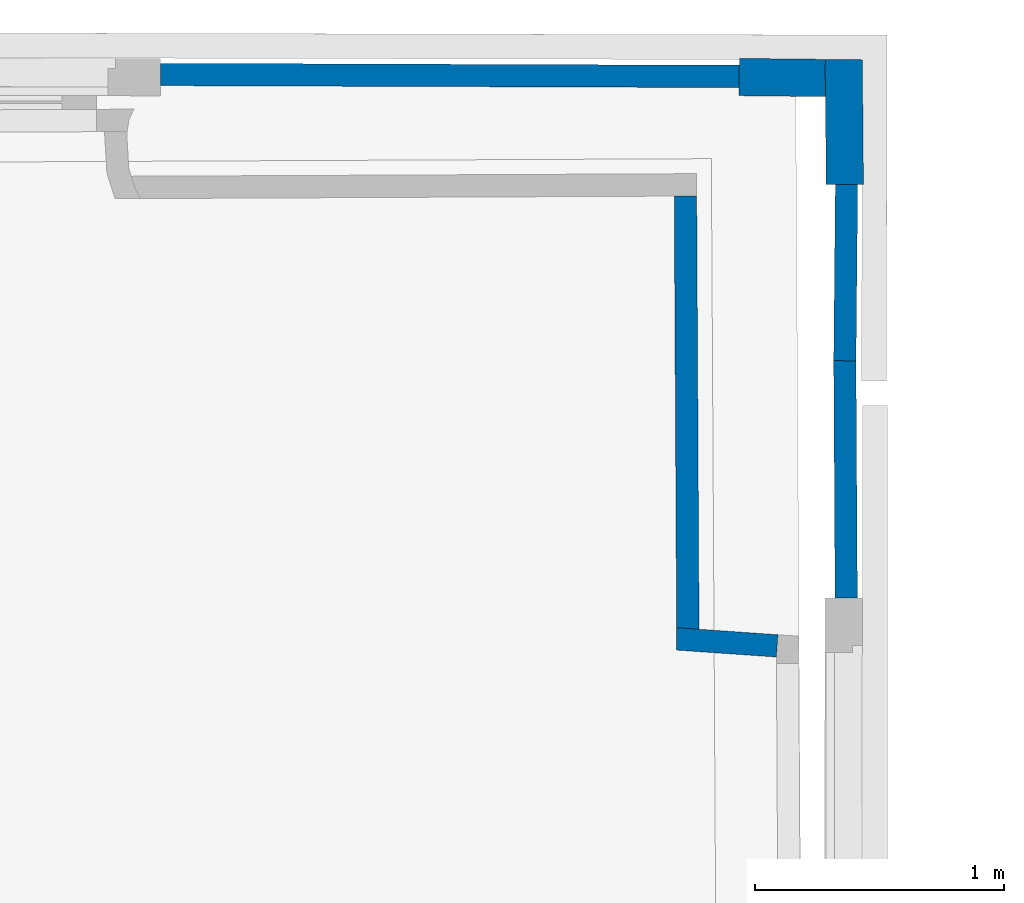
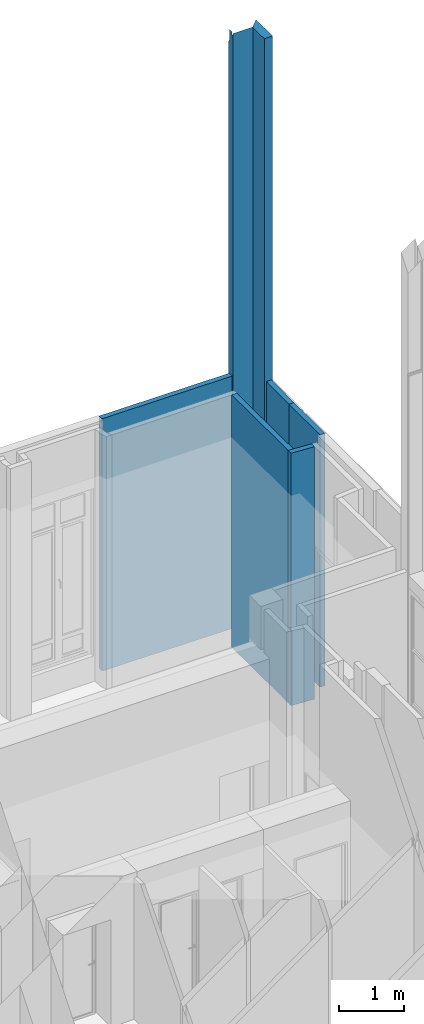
# One storey, part 24 of 97: 7 walls.
"""IFC2X3 building model written with IfcOpenShell, lengths in centimetres."""

import ifcopenshell
import ifcopenshell.guid

model = None  # the IFC model being written
_history = None  # IfcOwnerHistory: only IFC2X3 demands one
_inside = {}  # id of a spatial element -> (the spatial element, [elements in it])
_under = {}  # id of a project, library or spatial element -> (it, [spatial elements below it])
_declared = {}  # id of a project -> (the project, [libraries it declares])
_typed = {}  # id of a type object -> (the type object, [elements of that type])
_made_of = {}  # id of a material, layer set ... -> (it, [elements and type objects made of it])


def new_model(schema):
    """Start an empty IFC model of exactly this schema.

    Asked for "IFC4X3", IfcOpenShell would pick the latest addendum, in which some entities
    have other attributes; the version numbers below select the first issue.
    IFC2X3 requires an IfcOwnerHistory on every rooted entity: one is made here for all.
    """
    global model, _history
    if schema == "IFC4X3":
        model = ifcopenshell.file(schema_version=(4, 3, 0, 0))
    else:
        model = ifcopenshell.file(schema=schema)
    _inside.clear()
    _under.clear()
    _declared.clear()
    _typed.clear()
    _made_of.clear()
    _history = None
    if model.schema == "IFC2X3":
        org = make("IfcOrganization", Name="unknown")
        user = make(
            "IfcPersonAndOrganization",
            ThePerson=make("IfcPerson", FamilyName="unknown"),
            TheOrganization=org,
        )
        app = make(
            "IfcApplication",
            ApplicationDeveloper=org,
            Version="unknown",
            ApplicationFullName="unknown",
            ApplicationIdentifier="unknown",
        )
        _history = make(
            "IfcOwnerHistory",
            OwningUser=user,
            OwningApplication=app,
            ChangeAction="ADDED",
            CreationDate=0,
        )
    return model


def make(cls, **values):
    """One entity of the class cls with the attributes given. An attribute that is None is left unset."""
    return model.create_entity(
        cls, **{name: value for name, value in values.items() if value is not None}
    )


def entity(cls, *values):
    """Any entity or typed value of the class cls, its attributes in the order of the schema. None: left unset."""
    e = model.create_entity(cls)
    for i, value in enumerate(values):
        if value is not None:
            e[i] = value
    return e


def rooted(cls, **values):
    """An entity with a GlobalId (a new one), such as an element, a storey or a relation."""
    return make(cls, GlobalId=ifcopenshell.guid.new(), OwnerHistory=_history, **values)


def si_unit(unit_type, name, prefix=None):
    """IfcSIUnit, for example si_unit("LENGTHUNIT", "METRE", prefix="MILLI")."""
    return make("IfcSIUnit", UnitType=unit_type, Prefix=prefix, Name=name)


def converted_unit(unit_type, name, factor, base, dimensions=None, offset=None):
    """IfcConversionBasedUnit, such as the inch: factor (a typed value) times the base unit."""
    return make(
        "IfcConversionBasedUnit"
        if offset is None
        else "IfcConversionBasedUnitWithOffset",
        ConversionOffset=offset,
        Dimensions=None
        if dimensions is None
        else entity("IfcDimensionalExponents", *dimensions),
        UnitType=unit_type,
        Name=name,
        ConversionFactor=make(
            "IfcMeasureWithUnit", ValueComponent=factor, UnitComponent=base
        ),
    )


def assignment(units):
    """IfcUnitAssignment: the units of a project."""
    return None if units is None else make("IfcUnitAssignment", Units=units)


def point(xyz):
    """IfcCartesianPoint."""
    return None if xyz is None else make("IfcCartesianPoint", Coordinates=xyz)


def direction(xyz):
    """IfcDirection."""
    return None if xyz is None else make("IfcDirection", DirectionRatios=xyz)


def frame(location, z_axis=None, x_axis=None):
    """IfcAxis2Placement3D, a coordinate frame: its origin and axes. An axis left out is left unset."""
    return make(
        "IfcAxis2Placement3D",
        Location=point(location),
        Axis=direction(z_axis),
        RefDirection=direction(x_axis),
    )


def frame_2d(location, x_axis=None):
    """IfcAxis2Placement2D, a coordinate frame in the plane: its origin and x axis."""
    return make(
        "IfcAxis2Placement2D", Location=point(location), RefDirection=direction(x_axis)
    )


def origin():
    """The frame at (0, 0, 0) with its axes left unset."""
    return frame((0.0, 0.0, 0.0))


def origin_with_axes():
    """The frame at (0, 0, 0) with the z axis (0, 0, 1) and the x axis (1, 0, 0) written out."""
    return frame((0.0, 0.0, 0.0), z_axis=(0.0, 0.0, 1.0), x_axis=(1.0, 0.0, 0.0))


def origin_2d_with_axis():
    """The frame at (0, 0) in the plane with the x axis (1, 0) written out."""
    return frame_2d((0.0, 0.0), x_axis=(1.0, 0.0))


def place(relative_to, where):
    """IfcLocalPlacement: puts the frame where relative to a parent placement (None: the world)."""
    return make(
        "IfcLocalPlacement", PlacementRelTo=relative_to, RelativePlacement=where
    )


def context(
    kind, dimensions, precision=None, world=None, true_north=None, identifier=None
):
    """IfcGeometricRepresentationContext, for example the 3D "Model" context."""
    return make(
        "IfcGeometricRepresentationContext",
        ContextIdentifier=identifier,
        ContextType=kind,
        CoordinateSpaceDimension=dimensions,
        Precision=precision,
        WorldCoordinateSystem=world,
        TrueNorth=true_north,
    )


def subcontext(parent, identifier, kind, view, scale=None):
    """IfcGeometricRepresentationSubContext, for example "Body" below "Model"."""
    return make(
        "IfcGeometricRepresentationSubContext",
        ContextIdentifier=identifier,
        ContextType=kind,
        ParentContext=parent,
        TargetScale=scale,
        TargetView=view,
    )


def project(units=None, contexts=None):
    """IfcProject with its units and contexts."""
    return rooted(
        "IfcProject",
        Name="project",
        RepresentationContexts=contexts,
        UnitsInContext=assignment(units),
    )


def spatial(cls, under=None, at=None, **own):
    """A site, building, storey or space (cls), placed at a placement, below another one or the project."""
    s = rooted(cls, ObjectPlacement=at, **own)
    if under is not None:
        _under.setdefault(under.id(), (under, []))[1].append(s)
    return s


def polyline(points):
    """IfcPolyline through the points."""
    return make("IfcPolyline", Points=[point(p) for p in points])


def profile(cls, at=None, kind="AREA", **sizes):
    """A parametric profile (cls). Its sizes go by their IFC names, for example OverallWidth=200.0."""
    return make(cls, ProfileType=kind, Position=at, **sizes)


def rectangle(**sizes):
    """IfcRectangleProfileDef."""
    return profile("IfcRectangleProfileDef", **sizes)


def outline(outer, holes=None, kind="AREA"):
    """IfcArbitraryClosedProfileDef: a profile drawn as a closed curve; with holes, ...WithVoids."""
    if holes is None:
        return make("IfcArbitraryClosedProfileDef", ProfileType=kind, OuterCurve=outer)
    return make(
        "IfcArbitraryProfileDefWithVoids",
        ProfileType=kind,
        OuterCurve=outer,
        InnerCurves=holes,
    )


def extrude(swept, where, along, depth):
    """IfcExtrudedAreaSolid: the profile swept, set in the frame where, extruded along a direction by depth."""
    return make(
        "IfcExtrudedAreaSolid",
        SweptArea=swept,
        Position=where,
        ExtrudedDirection=direction(along),
        Depth=depth,
    )


def clip(a, b, op="DIFFERENCE"):
    """IfcBooleanClippingResult: the solid a cut by the half space b."""
    return make(
        "IfcBooleanClippingResult", Operator=op, FirstOperand=a, SecondOperand=b
    )


def bounded_halfspace(plane, agree, where, boundary):
    """IfcPolygonalBoundedHalfSpace: a half space limited to a polygon's prism."""
    return make(
        "IfcPolygonalBoundedHalfSpace",
        BaseSurface=make("IfcPlane", Position=plane),
        AgreementFlag=agree,
        Position=where,
        PolygonalBoundary=boundary,
    )


def shape(context_of_items, identifier, shape_type, items):
    """IfcShapeRepresentation: the items that make up one representation, for example the "Body"."""
    return make(
        "IfcShapeRepresentation",
        ContextOfItems=context_of_items,
        RepresentationIdentifier=identifier,
        RepresentationType=shape_type,
        Items=items,
    )


def material(Name=None, Category=None):
    """IfcMaterial."""
    return make("IfcMaterial", Name=Name, Category=Category)


def layer(
    of_material, thickness, ventilated=None, Name=None, Category=None, Priority=None
):
    """IfcMaterialLayer: one layer of a wall or slab, of a material (None: an air gap)."""
    return make(
        "IfcMaterialLayer",
        Material=of_material,
        LayerThickness=thickness,
        IsVentilated=ventilated,
        Name=Name,
        Category=Category,
        Priority=Priority,
    )


def layer_set(layers, Name=None):
    """IfcMaterialLayerSet."""
    return make("IfcMaterialLayerSet", MaterialLayers=layers, LayerSetName=Name)


def layer_usage(for_layer_set, set_direction, sense, offset, extent=None):
    """IfcMaterialLayerSetUsage: how a layer set lies in its element."""
    return make(
        "IfcMaterialLayerSetUsage",
        ForLayerSet=for_layer_set,
        LayerSetDirection=set_direction,
        DirectionSense=sense,
        OffsetFromReferenceLine=offset,
        ReferenceExtent=extent,
    )


def made_of(thing, what):
    """Note that an element or type object is made of a material, layer set ...; save() writes the relation."""
    if what is not None:
        _made_of.setdefault(what.id(), (what, []))[1].append(thing)
    return thing


def type_object(cls, material=None, **own):
    """A type object (cls), such as IfcWallType, which elements share."""
    return made_of(rooted(cls, **own), material)


def element(
    cls,
    number,
    at=None,
    inside=None,
    cuts=None,
    type_object=None,
    material=None,
    context=None,
    identifier="Body",
    shape_type=None,
    held_by="IfcProductDefinitionShape",
    body=None,
    shapes=None,
    **own,
):
    """One element of the class cls, such as IfcWall. Its Tag is "e" and its number.

    at: its placement. inside: the storey or other place that contains it. cuts: it is an
    opening in that element (IfcRelVoidsElement). A single representation is given by context,
    identifier, shape_type and body (its items); several are given by shapes. held_by: the class
    of the entity that holds the representations. save() writes the other relations.
    """
    e = rooted(cls, Tag="e%d" % number, ObjectPlacement=at, **own)
    if body is not None:
        shapes = [shape(context, identifier, shape_type, body)]
    if shapes is not None:
        e.Representation = make(held_by, Representations=shapes)
    if inside is not None:
        _inside.setdefault(inside.id(), (inside, []))[1].append(e)
    if cuts is not None:
        rooted(
            "IfcRelVoidsElement", RelatingBuildingElement=cuts, RelatedOpeningElement=e
        )
    if type_object is not None:
        _typed.setdefault(type_object.id(), (type_object, []))[1].append(e)
    return made_of(e, material)


def aggregate(whole, parts):
    """IfcRelAggregates: a whole, such as a stair, and the parts it consists of."""
    return rooted("IfcRelAggregates", RelatingObject=whole, RelatedObjects=parts)


def save(model, path):
    """Write the relations noted so far, then the file.

    IfcRelAggregates (storeys below a building ...), IfcRelContainedInSpatialStructure (elements
    in a storey), IfcRelDefinesByType, IfcRelAssociatesMaterial and IfcRelDeclares: one each for
    every whole, place, type object, material and project.
    """
    for whole, parts in _under.values():
        aggregate(whole, parts)
    for where, things in _inside.values():
        rooted(
            "IfcRelContainedInSpatialStructure",
            RelatedElements=things,
            RelatingStructure=where,
        )
    for kind, things in _typed.values():
        rooted("IfcRelDefinesByType", RelatedObjects=things, RelatingType=kind)
    for what, things in _made_of.values():
        rooted("IfcRelAssociatesMaterial", RelatedObjects=things, RelatingMaterial=what)
    for by, libraries in _declared.values():
        rooted("IfcRelDeclares", RelatingContext=by, RelatedDefinitions=libraries)
    model.write(path)


model = new_model("IFC2X3")

# Units and contexts
model_context = context("Model", 3, precision=0.0001, world=origin(), true_north=direction((0.225632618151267, 0.974212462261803, 0.0)))
body_context = subcontext(model_context, "Body", "Model", "MODEL_VIEW")
ifc_project = project(units=[si_unit("LENGTHUNIT", "METRE", prefix="CENTI"), si_unit("AREAUNIT", "SQUARE_METRE", prefix="CENTI"), si_unit("VOLUMEUNIT", "CUBIC_METRE", prefix="CENTI"), converted_unit("PLANEANGLEUNIT", "DEGREE", entity("IfcRatioMeasure", 0.0174532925), si_unit("PLANEANGLEUNIT", "RADIAN"), dimensions=[0, 0, 0, 0, 0, 0, 0])], contexts=[model_context])

# Site, building, storey
site_placement = place(None, origin_with_axes())
site = spatial("IfcSite", under=ifc_project, at=site_placement, Name="Default Site", CompositionType="ELEMENT")
building_placement = place(site_placement, origin_with_axes())
building = spatial("IfcBuilding", under=site, at=building_placement, Name="Default Building", CompositionType="ELEMENT")
storey_placement = place(building_placement, origin_with_axes())
storey = spatial("IfcBuildingStorey", under=building, at=storey_placement, Name="Rez-de-chaussée", CompositionType="ELEMENT", Elevation=0.0)

# Walls
ifc_material = material(Name="<aucun>")
ifc_layer_1 = layer(ifc_material, 9.0)
ifc_layer_set_1 = layer_set([ifc_layer_1], Name="default")
ifc_layer_usage_1 = layer_usage(ifc_layer_set_1, "AXIS2", "POSITIVE", -4.5)
wall_type_1 = type_object("IfcWallType", Name="default 90", PredefinedType="NOTDEFINED", material=ifc_layer_set_1)
wall_1_placement = place(storey_placement, frame((1101.70544788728, 751.851896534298, 0.0128503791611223), z_axis=(0.0, 0.0, 1.0), x_axis=(-0.9999942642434, 0.0033869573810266, 0.0)))
element("IfcWallStandardCase", 1, at=wall_1_placement, inside=storey, type_object=wall_type_1, material=ifc_layer_usage_1, Name="Enveloppe 369825", context=body_context, shape_type="SweptSolid", body=[
    extrude(rectangle(XDim=8.99999999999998, YDim=232.77805146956, at=origin_2d_with_axis()), frame((116.553246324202, -1.77635683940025e-12, -2.71050543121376e-18), z_axis=(0.0, 0.0, 1.0), x_axis=(-1.97368163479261e-14, -1.0, 0.0)), (0.0, 0.0, 1.0), 477.795358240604),
])
ifc_layer_usage_2 = layer_usage(ifc_layer_set_1, "AXIS2", "POSITIVE", -4.5)
wall_2_placement = place(storey_placement, frame((1144.6249290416, 541.965379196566, 0.0128503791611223), z_axis=(0.0, 0.0, 1.0), x_axis=(-0.00586389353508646, 0.999982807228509, 0.0)))
element("IfcWallStandardCase", 2, at=wall_2_placement, inside=storey, type_object=wall_type_1, material=ifc_layer_usage_2, Name="Enveloppe 368501", context=body_context, shape_type="SweptSolid", body=[
    extrude(outline(polyline([(95.5442477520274, 4.49512329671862), (0.0848769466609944, 4.49999999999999), (0.0848769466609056, -4.49999999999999), (95.4049111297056, -4.50456625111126), (95.5442477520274, 4.49512329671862)])), origin_with_axes(), (0.0, 0.0, 1.0), 477.795358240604),
])
ifc_layer_usage_3 = layer_usage(ifc_layer_set_1, "AXIS2", "POSITIVE", -4.5)
wall_3_placement = place(storey_placement, frame((1144.07013430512, 637.413280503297, 0.0128503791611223), z_axis=(0.0, 0.0, 1.0), x_axis=(0.00961788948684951, 0.999953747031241, 0.0)))
element("IfcWallStandardCase", 3, at=wall_3_placement, inside=storey, type_object=wall_type_1, material=ifc_layer_usage_3, Name="Enveloppe 368626", context=body_context, shape_type="SweptSolid", body=[
    extrude(outline(polyline([(0.0250655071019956, 4.49999999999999), (0.0250655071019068, -4.49999999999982), (71.0646398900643, -4.50000000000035), (70.9016464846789, 4.49999999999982), (0.0250655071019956, 4.49999999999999)])), frame((0.0, 0.0, -5.42101086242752e-18), z_axis=(0.0, 0.0, 1.0), x_axis=(1.0, 0.0, 0.0)), (0.0, 0.0, 1.0), 477.795358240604),
])
ifc_layer_usage_4 = layer_usage(ifc_layer_set_1, "AXIS2", "POSITIVE", -4.5)
wall_4_placement = place(storey_placement, frame((1080.88993312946, 529.624532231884, 0.0128503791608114), z_axis=(0.0, 0.0, 1.0), x_axis=(-0.00545160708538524, 0.999985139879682, 0.0)))
element("IfcWallStandardCase", 4, at=wall_4_placement, inside=storey, type_object=wall_type_1, material=ifc_layer_usage_4, Name="Enveloppe 672919", context=body_context, shape_type="SweptSolid", body=[
    extrude(outline(polyline([(174.091029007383, 4.50000000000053), (0.443706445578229, 4.50000000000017), (-0.232449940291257, -4.49999999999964), (174.083551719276, -4.49999999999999), (174.091029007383, 4.50000000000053)])), origin_with_axes(), (0.0, 0.0, 1.0), 477.795358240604),
])
ifc_layer_usage_5 = layer_usage(ifc_layer_set_1, "AXIS2", "POSITIVE", -4.5)
wall_5_placement = place(storey_placement, frame((1116.8466178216, 522.7148965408, 0.0128503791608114), z_axis=(0.0, 0.0, 1.0), x_axis=(-0.997583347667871, 0.0694799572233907, 0.0)))
element("IfcWallStandardCase", 5, at=wall_5_placement, inside=storey, type_object=wall_type_1, material=ifc_layer_usage_5, Name="Enveloppe 672746", context=body_context, shape_type="SweptSolid", body=[
    extrude(outline(polyline([(40.8704662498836, -4.49999999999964), (40.1943098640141, 4.50000000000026), (-1.77635683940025e-13, 4.49999999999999), (0.0, -4.49999999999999), (40.8704662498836, -4.49999999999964)])), frame((0.0, 0.0, -2.71050543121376e-18), z_axis=(0.0, 0.0, 1.0), x_axis=(1.0, 0.0, 0.0)), (0.0, 0.0, 1.0), 477.795358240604),
])
ifc_layer_2 = layer(ifc_material, 15.0)
ifc_layer_set_2 = layer_set([ifc_layer_2], Name="default")
ifc_layer_usage_6 = layer_usage(ifc_layer_set_2, "AXIS2", "POSITIVE", -7.5)
wall_type_2 = type_object("IfcWallType", Name="default 150", PredefinedType="NOTDEFINED", material=ifc_layer_set_2)
wall_6_placement = place(storey_placement, frame((1136.12541049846, 751.214648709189, 0.0128503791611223), z_axis=(0.0, 0.0, 1.0), x_axis=(-0.99993938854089, 0.0110099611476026, 0.0)))
solid_1 = clip(clip(clip(clip(clip(clip(clip(clip(extrude(outline(polyline([(34.5679850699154, 4.24249394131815), (34.5111467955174, 4.24223282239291), (34.5102395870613, 7.50000000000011), (-0.205247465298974, 7.50000000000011), (-0.205247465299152, -1.25702815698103), (-0.034492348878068, -1.25514803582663), (-1.77635683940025e-13, -3.02388290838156), (0.0, -7.50000000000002), (34.5102395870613, -7.49999999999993), (34.5102395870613, -4.75772687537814), (34.6102298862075, -4.75662591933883), (34.5679850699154, 4.24249394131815)])), frame((0.0, 0.0, -2.71050543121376e-18), z_axis=(0.0, 0.0, 1.0), x_axis=(1.0, 0.0, 0.0)), (0.0, 0.0, 1.0), 1128.48871698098), bounded_halfspace(frame((34.5416314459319, 4.242370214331, 477.795358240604), z_axis=(0.0, 0.0, 1.0), x_axis=(0.999988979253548, 0.00469482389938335, 0.0)), True, frame((34.5416314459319, 4.242370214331, 477.795358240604), z_axis=(0.0, 0.0, 1.0), x_axis=(1.0, 0.0, 0.0)), polyline([(-1.77635683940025e-13, 0.0), (0.0131760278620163, 6.18598122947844e-05), (0.0686070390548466, -8.99977708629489), (-1.77635683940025e-13, 0.0)]))), bounded_halfspace(frame((34.5891117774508, -0.257456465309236, 477.795358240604), z_axis=(0.0, 0.0, 1.0), x_axis=(-0.0076231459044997, 0.999970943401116, 0.0)), True, frame((34.5891117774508, -0.257456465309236, 477.795358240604), z_axis=(0.0, 0.0, 1.0), x_axis=(1.0, 0.0, 0.0)), polyline([(-0.0343043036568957, 4.49988853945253), (-0.0211267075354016, 4.49995040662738), (0.0, 0.0), (-0.0343043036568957, 4.49988853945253)]))), bounded_halfspace(frame((-0.0434859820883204, -0.794177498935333, 1114.64514962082), z_axis=(0.0, 0.0, 1.0), x_axis=(0.0194993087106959, -0.999809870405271, 0.0)), True, frame((-0.0434859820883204, -0.794177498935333, 1114.64514962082), z_axis=(0.0, 0.0, 1.0), x_axis=(1.0, 0.0, 0.0)), polyline([(-0.161761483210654, -0.18937826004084), (-0.161761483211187, -0.085269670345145), (0.0, 0.0), (0.00200976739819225, -0.103049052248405), (-0.161761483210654, -0.18937826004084)]))), bounded_halfspace(frame((-0.205247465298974, 6.79252746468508, 1114.64514962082), z_axis=(0.0, 0.0, 1.0), x_axis=(0.7067357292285, 0.707477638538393, 0.0)), True, frame((-0.205247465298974, 6.79252746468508, 1114.64514962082), z_axis=(0.0, 0.0, 1.0), x_axis=(1.0, 0.0, 0.0)), polyline([(-5.32907051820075e-13, -7.67197463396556), (0.0, 0.0), (0.0135336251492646, 0.0135478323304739), (0.161761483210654, -7.58670496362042), (-5.32907051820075e-13, -7.67197463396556)]))), bounded_halfspace(frame((-0.205247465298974, 6.79252746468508, 1114.64514962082), z_axis=(0.0, 0.0, 1.0), x_axis=(-6.90038304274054e-14, 1.0, 0.0)), True, frame((-0.205247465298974, 6.79252746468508, 1114.64514962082), z_axis=(0.0, 0.0, 1.0), x_axis=(1.0, 0.0, 0.0)), polyline([(0.0, 0.0), (0.0, 0.707472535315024), (0.0135336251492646, 0.0135478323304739), (0.0, 0.0)]))), bounded_halfspace(frame((-0.205247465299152, -1.25702815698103, 1114.64514962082), z_axis=(0.0, 0.0, 1.0), x_axis=(2.06029637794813e-13, 1.0, 0.0)), True, frame((-0.205247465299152, -1.25702815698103, 1114.64514962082), z_axis=(0.0, 0.0, 1.0), x_axis=(1.0, 0.0, 0.0)), polyline([(-1.77635683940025e-13, 0.0), (1.77635683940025e-13, 0.273472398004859), (0.163771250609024, 0.359801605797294), (0.170759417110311, 0.00148952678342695), (-1.77635683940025e-13, 0.0)]))), bounded_halfspace(frame((15.888523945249, 7.50000000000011, 1128.22700207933), z_axis=(-0.00736548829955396, 0.844379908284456, -0.535694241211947), x_axis=(0.999969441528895, 0.00762313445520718, -0.00173315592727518)), True, frame((15.888523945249, 7.50000000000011, 1128.22700207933), z_axis=(0.0, 0.0, 1.0), x_axis=(1.0, 0.0, 0.0)), polyline([(-15.8885239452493, -10.5238829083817), (-15.888523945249, -12.5208111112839), (18.6217156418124, -12.2577268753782), (18.6217156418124, 0.0), (0.0, 0.0), (-15.9300001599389, -8.39722655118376), (-15.8885239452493, -10.5238829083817)]))), bounded_halfspace(frame((0.0, -5.02081111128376, 1108.70972189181), z_axis=(-0.00736548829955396, 0.844379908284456, -0.535694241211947), x_axis=(-0.999969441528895, -0.00762313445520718, 0.00173315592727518)), True, frame((0.0, -5.02081111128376, 1108.70972189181), z_axis=(0.0, 0.0, 1.0), x_axis=(1.0, 0.0, 0.0)), polyline([(0.0, -2.47918888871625), (34.5102395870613, -2.47918888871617), (34.5102395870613, 0.26308423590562), (0.0, 0.0), (0.0, -2.47918888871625)])))
solid_2 = clip(clip(clip(clip(clip(clip(clip(clip(solid_1, bounded_halfspace(frame((34.5102395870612, 4.24222283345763, 1122.83594241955), z_axis=(-0.00736548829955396, 0.844379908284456, -0.535694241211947), x_axis=(-0.00408358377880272, 0.53567890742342, 0.844411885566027)), True, frame((34.5102395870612, 4.24222283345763, 1122.83594241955), z_axis=(0.0, 0.0, 1.0), x_axis=(1.0, 0.0, 0.0)), polyline([(1.77635683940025e-13, -8.99994970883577), (0.0999988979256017, -8.99962970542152), (0.0313918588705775, 0.000147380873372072), (-1.77635683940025e-13, 8.88178419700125e-14), (1.77635683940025e-13, -8.99994970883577)]))), bounded_halfspace(frame((15.6910471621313, 7.50000000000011, 1128.22971727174), z_axis=(-0.00736548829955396, 0.844379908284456, -0.535694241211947), x_axis=(0.0104460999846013, -0.535614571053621, -0.844397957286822)), True, frame((15.6910471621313, 7.50000000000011, 1128.22971727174), z_axis=(0.0, 0.0, 1.0), x_axis=(1.0, 0.0, 0.0)), polyline([(-15.7325233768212, -8.39722655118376), (0.1974767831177, 0.0), (-1.77635683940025e-13, 8.88178419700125e-14), (-15.7345331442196, -8.29417749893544), (-15.7325233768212, -8.39722655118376)]))), bounded_halfspace(frame((0.47883507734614, 7.50000000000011, 1128.48866901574), z_axis=(-0.00907403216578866, 0.845307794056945, -0.534202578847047), x_axis=(0.0104168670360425, -0.534115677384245, -0.845347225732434)), True, frame((0.47883507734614, 7.50000000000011, 1128.48866901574), z_axis=(0.0, 0.0, 1.0), x_axis=(1.0, 0.0, 0.0)), polyline([(-0.670557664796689, -0.693476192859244), (-0.522321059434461, -8.29417749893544), (15.2122120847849, 8.88178419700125e-14), (-1.77635683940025e-13, 0.0), (-0.670557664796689, -0.693476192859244)]))), bounded_halfspace(frame((0.47883507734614, 7.50000000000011, 1128.48871698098), z_axis=(0.848827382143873, 0.00755762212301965, -0.528616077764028), x_axis=(-0.528631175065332, 1.89848137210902e-14, -0.848851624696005)), True, frame((0.47883507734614, 7.50000000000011, 1128.48871698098), z_axis=(0.0, 0.0, 1.0), x_axis=(1.0, 0.0, 0.0)), polyline([(-0.684082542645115, 0.0), (-0.670557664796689, -0.693476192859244), (-1.77635683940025e-13, 0.0), (-0.684082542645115, 0.0)]))), bounded_halfspace(frame((34.5759352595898, -0.257556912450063, 853.897523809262), z_axis=(0.0, 0.0, -1.0), x_axis=(0.00762297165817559, -0.999970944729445, 0.0)), True, frame((34.5759352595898, -0.257556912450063, 853.897523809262), z_axis=(0.0, 0.0, 1.0), x_axis=(1.0, 0.0, 0.0)), polyline([(-0.0343038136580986, 4.49992712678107), (0.0343032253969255, -4.49984995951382), (-0.0211277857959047, 4.49998898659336), (-0.0343038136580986, 4.49992712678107)]))), bounded_halfspace(frame((34.5679850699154, 4.24249394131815, 853.897523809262), z_axis=(0.0, 0.0, -1.0), x_axis=(-0.999988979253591, -0.00469482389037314, 0.0)), True, frame((34.5679850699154, 4.24249394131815, 853.897523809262), z_axis=(0.0, 0.0, 1.0), x_axis=(1.0, 0.0, 0.0)), polyline([(-0.0131775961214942, -6.18671748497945e-05), (0.0211267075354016, -4.49995040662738), (0.0, 0.0), (-0.0131775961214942, -6.18671748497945e-05)]))), bounded_halfspace(frame((-0.0434859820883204, -0.794177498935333, 1115.3724868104), z_axis=(-0.00736548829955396, 0.844379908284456, -0.535694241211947), x_axis=(1.0849897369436e-12, -0.535708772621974, -0.844402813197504)), True, frame((-0.0434859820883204, -0.794177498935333, 1115.3724868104), z_axis=(0.0, 0.0, 1.0), x_axis=(1.0, 0.0, 0.0)), polyline([(-0.161761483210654, -0.18937826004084), (0.00200976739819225, -0.103049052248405), (0.0, 0.0), (-0.161761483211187, -0.085269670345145), (-0.161761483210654, -0.18937826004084)]))), bounded_halfspace(frame((-0.19171384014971, 6.80607529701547, 1127.40201125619), z_axis=(-0.00907403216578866, 0.845307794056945, -0.534202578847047), x_axis=(0.716928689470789, 0.377916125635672, 0.585826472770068)), True, frame((-0.19171384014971, 6.80607529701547, 1127.40201125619), z_axis=(0.0, 0.0, 1.0), x_axis=(1.0, 0.0, 0.0)), polyline([(-0.0135336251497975, -7.68552246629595), (0.148227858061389, -7.6002527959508), (0.0, 8.88178419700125e-14), (-0.0135336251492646, -0.013547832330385), (-0.0135336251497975, -7.68552246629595)])))
element("IfcWallStandardCase", 6, at=wall_6_placement, inside=storey, type_object=wall_type_2, material=ifc_layer_usage_6, Name="Enveloppe 369434", context=body_context, shape_type="Clipping", body=[
    clip(clip(solid_2, bounded_halfspace(frame((-0.19171384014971, 6.80607529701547, 1127.40205933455), z_axis=(0.848827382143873, 0.00755762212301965, -0.528616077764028), x_axis=(-0.0194964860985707, 0.999665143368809, -0.0170143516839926)), True, frame((-0.19171384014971, 6.80607529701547, 1127.40205933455), z_axis=(0.0, 0.0, 1.0), x_axis=(1.0, 0.0, 0.0)), polyline([(-0.0135336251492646, -0.013547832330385), (0.0, 8.88178419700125e-14), (-0.0135336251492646, 0.693924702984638), (-0.0135336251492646, -0.013547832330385)]))), bounded_halfspace(frame((-0.0414762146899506, -0.897226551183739, 1115.21002967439), z_axis=(-0.00736548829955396, 0.844379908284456, -0.535694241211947), x_axis=(-0.0104460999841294, 0.535614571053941, 0.844397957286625)), True, frame((-0.0414762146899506, -0.897226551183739, 1115.21002967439), z_axis=(0.0, 0.0, 1.0), x_axis=(1.0, 0.0, 0.0)), polyline([(-0.163771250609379, -0.359801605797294), (0.00698816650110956, -0.358312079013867), (-1.77635683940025e-13, 0.0), (-0.163771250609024, -0.0863292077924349), (-0.163771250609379, -0.359801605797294)]))),
])
ifc_layer_usage_7 = layer_usage(ifc_layer_set_2, "AXIS2", "POSITIVE", -7.5)
wall_7_placement = place(storey_placement, frame((1144.04827617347, 708.387158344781, 0.0128503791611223), z_axis=(0.0, 0.0, 1.0), x_axis=(-0.00849025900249, 0.99996395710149, 0.0)))
solid_3 = clip(clip(clip(clip(clip(clip(clip(clip(extrude(outline(polyline([(45.9165218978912, 7.50000000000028), (0.0, 7.50000000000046), (0.0, 4.06884938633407), (-0.0582359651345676, 4.069343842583), (-0.099995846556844, -5.44333497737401), (5.29692556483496e-07, -5.44418400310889), (-8.88178419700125e-14, -7.50000000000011), (50.1009449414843, -7.49999999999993), (50.391787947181, 7.41271881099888), (45.9165218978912, 7.50000000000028)])), frame((0.0, 0.0, -1.0842021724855e-17), z_axis=(0.0, 0.0, 1.0), x_axis=(1.0, 0.0, 0.0)), (0.0, 0.0, 1.0), 1127.39024870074), bounded_halfspace(frame((-0.099995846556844, -5.44333497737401, 477.795358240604), z_axis=(0.0, 0.0, 1.0), x_axis=(-6.00310995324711e-06, 0.999999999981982, 0.0)), True, frame((-0.099995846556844, -5.44333497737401, 477.795358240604), z_axis=(0.0, 0.0, 1.0), x_axis=(1.0, 0.0, 0.0)), polyline([(0.0, 0.0), (-1.43964484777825e-06, 0.239816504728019), (0.099995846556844, 0.238005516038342), (0.0999958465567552, -0.00091141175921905), (0.0, 0.0)]))), bounded_halfspace(frame((-8.88178419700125e-14, 3.55612743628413, 477.795358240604), z_axis=(0.0, 0.0, 1.0), x_axis=(-1.02053782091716e-14, -1.0, 0.0)), True, frame((-8.88178419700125e-14, 3.55612743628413, 477.795358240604), z_axis=(0.0, 0.0, 1.0), x_axis=(1.0, 0.0, 0.0)), polyline([(-0.0999989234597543, -8.48691092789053), (-0.0179687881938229, 0.000163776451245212), (0.0, 1.77635683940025e-13), (8.88178419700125e-14, -8.48737493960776), (-0.0999989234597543, -8.48691092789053)]))), bounded_halfspace(frame((-0.0999972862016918, -5.20351847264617, 477.795358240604), z_axis=(0.0, 0.0, 1.0), x_axis=(-6.00311027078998e-06, 0.999999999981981, 0.0)), True, frame((-0.0999972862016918, -5.20351847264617, 477.795358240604), z_axis=(0.0, 0.0, 1.0), x_axis=(1.0, 0.0, 0.0)), polyline([(0.0, 1.77635683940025e-13), (-1.63725815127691e-06, 0.272734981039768), (0.0999972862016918, 0.272270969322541), (0.0999972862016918, -0.00181098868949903), (0.0, 1.77635683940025e-13)]))), bounded_halfspace(frame((-0.0582378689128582, 4.06911961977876, 853.897523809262), z_axis=(0.0, 0.0, 1.0), x_axis=(0.999989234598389, -0.00464011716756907, 0.0)), True, frame((-0.0582378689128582, 4.06911961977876, 853.897523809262), z_axis=(0.0, 0.0, 1.0), x_axis=(1.0, 0.0, 0.0)), polyline([(-0.0417610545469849, -8.99990311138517), (0.0154621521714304, -0.512602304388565), (-0.0023777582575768, -0.512429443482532), (0.0, 1.77635683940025e-13), (0.0582378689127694, -0.000270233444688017), (0.0582378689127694, -0.512992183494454), (0.0402690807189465, -0.512828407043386), (-0.0417610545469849, -8.99990311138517)]))), bounded_halfspace(frame((-0.060615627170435, 3.55669017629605, 853.897523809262), z_axis=(0.0, 0.0, 1.0), x_axis=(0.999953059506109, -0.00968910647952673, 0.0)), True, frame((-0.060615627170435, 3.55669017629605, 853.897523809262), z_axis=(0.0, 0.0, 1.0), x_axis=(1.0, 0.0, 0.0)), polyline([(-0.0185027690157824, -3.98752211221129), (0.0, 1.77635683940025e-13), (0.0178399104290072, -0.000172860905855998), (-0.0185027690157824, -3.98752211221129)]))), bounded_halfspace(frame((35.390637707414, 7.50000000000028, 1127.39024870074), z_axis=(0.00899536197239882, 0.848813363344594, -0.528616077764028), x_axis=(0.00627840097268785, 0.528579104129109, 0.848860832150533)), True, frame((35.390637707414, 7.50000000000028, 1127.39024870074), z_axis=(0.0, 0.0, 1.0), x_axis=(1.0, 0.0, 0.0)), polyline([(-35.3906377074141, -12.9442463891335), (12.3639750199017, -13.3795056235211), (12.3833908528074, -11.7448850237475), (0.707795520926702, -0.0138041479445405), (0.0, 1.77635683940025e-13), (-35.390637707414, 3.5527136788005e-13), (-35.3906377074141, -12.9442463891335)]))), bounded_halfspace(frame((49.4155151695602, -5.89464391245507, 1106.12075960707), z_axis=(0.00899536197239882, 0.848813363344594, -0.528616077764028), x_axis=(-0.140071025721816, -0.522355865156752, -0.841144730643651)), True, frame((49.4155151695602, -5.89464391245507, 1106.12075960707), z_axis=(0.0, 0.0, 1.0), x_axis=(1.0, 0.0, 0.0)), polyline([(-4.28849388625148, -1.60535608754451), (0.685429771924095, -1.60535608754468), (0.702963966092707, -0.706305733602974), (0.0, 1.77635683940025e-13), (-3.84860737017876, 0.035078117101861), (-4.28849388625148, -1.60535608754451)]))), bounded_halfspace(frame((45.5669077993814, -5.85956579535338, 1106.11159446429), z_axis=(0.00899536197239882, 0.848813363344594, -0.528616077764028), x_axis=(-9.20531012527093e-15, -0.528637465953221, -0.848847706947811)), True, frame((45.5669077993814, -5.85956579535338, 1106.11159446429), z_axis=(0.0, 0.0, 1.0), x_axis=(1.0, 0.0, 0.0)), polyline([(-45.5669077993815, -1.64043420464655), (-0.439886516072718, -1.64043420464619), (0.0, 1.77635683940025e-13), (-45.5669077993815, 0.415319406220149), (-45.5669077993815, -1.64043420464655)])))
solid_4 = clip(clip(clip(clip(clip(clip(clip(clip(solid_3, bounded_halfspace(frame((47.7560957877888, -5.7546466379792, 1106.31731904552), z_axis=(0.00899536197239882, 0.848813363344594, -0.528616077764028), x_axis=(0.999955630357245, -0.00911409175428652, 0.00238131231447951)), True, frame((47.7560957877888, -5.7546466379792, 1106.31731904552), z_axis=(0.0, 0.0, 1.0), x_axis=(1.0, 0.0, 0.0)), polyline([(-0.00148306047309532, -0.124858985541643), (1.65941938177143, -0.139997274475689), (1.53826941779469, -0.0182713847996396), (0.0, 1.77635683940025e-13), (-0.00148306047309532, -0.124858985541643)]))), bounded_halfspace(frame((47.8182942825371, -0.518150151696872, 1108.72355210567), z_axis=(-0.844362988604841, 0.00910073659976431, -0.535694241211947), x_axis=(-0.0118770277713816, -0.999927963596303, 0.00173315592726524)), True, frame((47.8182942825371, -0.518150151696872, 1108.72355210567), z_axis=(0.0, 0.0, 1.0), x_axis=(1.0, 0.0, 0.0)), polyline([(0.0, 0.0), (2.3284399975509, -4.63404186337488), (2.56949148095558, 7.725660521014), (0.0923383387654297, 7.77397248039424), (0.0, 0.0)]))), bounded_halfspace(frame((44.1460008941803, 7.32924400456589, 1114.64514962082), z_axis=(0.0, 0.0, -1.0), x_axis=(0.010777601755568, 0.999941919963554, 0.0)), True, frame((44.1460008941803, 7.32924400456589, 1114.64514962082), z_axis=(0.0, 0.0, 1.0), x_axis=(1.0, 0.0, 0.0)), polyline([(-8.75536318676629, 0.170755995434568), (0.0, 1.77635683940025e-13), (0.00184044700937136, 0.170755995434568), (-8.75536318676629, 0.170755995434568)]))), bounded_halfspace(frame((47.9106326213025, 7.25582232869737, 1108.71007762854), z_axis=(-0.844362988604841, 0.00910073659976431, -0.535694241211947), x_axis=(-0.0118770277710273, -0.999927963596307, 0.00173315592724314)), True, frame((47.9106326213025, 7.25582232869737, 1108.71007762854), z_axis=(0.0, 0.0, 1.0), x_axis=(1.0, 0.0, 0.0)), polyline([(0.0, 0.0), (2.47715314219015, -0.0483119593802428), (2.48115532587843, 0.156896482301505), (0.00243780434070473, 0.205238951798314), (0.0, 0.0)]))), bounded_halfspace(frame((43.8725804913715, 7.33457652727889, 1115.07620633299), z_axis=(-0.844362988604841, 0.00910073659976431, -0.535694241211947), x_axis=(0.363864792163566, -0.724160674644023, -0.58582738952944)), True, frame((43.8725804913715, 7.33457652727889, 1115.07620633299), z_axis=(0.0, 0.0, 1.0), x_axis=(1.0, 0.0, 0.0)), polyline([(0.0, 1.77635683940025e-13), (3.94571379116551, -7.85272667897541), (4.03805212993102, -0.078754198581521), (0.0, 1.77635683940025e-13)]))), bounded_halfspace(frame((43.7684916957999, 7.33660657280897, 1115.24030591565), z_axis=(-0.844362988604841, 0.00910073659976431, -0.535694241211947), x_axis=(0.0118770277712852, 0.999927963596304, -0.00173315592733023)), True, frame((43.7684916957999, 7.33660657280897, 1115.24030591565), z_axis=(0.0, 0.0, 1.0), x_axis=(1.0, 0.0, 0.0)), polyline([(8.88178419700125e-14, 1.77635683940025e-13), (4.04742224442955, -8.05515794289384), (4.04980258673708, -7.85475672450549), (0.104088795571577, -0.00203004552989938), (8.88178419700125e-14, 1.77635683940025e-13)]))), bounded_halfspace(frame((36.0984332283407, 7.48619585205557, 1127.38007934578), z_axis=(-0.84532401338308, 0.00741061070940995, -0.534202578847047), x_axis=(0.011876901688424, 0.999917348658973, -0.00492291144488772)), True, frame((36.0984332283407, 7.48619585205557, 1127.38007934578), z_axis=(0.0, 0.0, 1.0), x_axis=(1.0, 0.0, 0.0)), polyline([(0.0, 1.77635683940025e-13), (11.6755953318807, -11.7310808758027), (11.7174807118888, -8.20474722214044), (7.6700584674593, -0.14958927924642), (0.0, 1.77635683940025e-13)]))), bounded_halfspace(frame((49.4155151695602, -5.89464391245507, 1106.12145986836), z_axis=(-0.84532401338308, 0.00741061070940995, -0.534202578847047), x_axis=(-0.534180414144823, 0.00486878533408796, 0.845356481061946)), True, frame((49.4155151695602, -5.89464391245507, 1106.12145986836), z_axis=(0.0, 0.0, 1.0), x_axis=(1.0, 0.0, 0.0)), polyline([(0.0, 1.77635683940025e-13), (0.702963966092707, -0.706305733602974), (0.716611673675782, -0.00653155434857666), (0.0, 1.77635683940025e-13)])))
solid_5 = clip(clip(clip(clip(clip(clip(clip(clip(solid_4, bounded_halfspace(frame((49.2943652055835, -5.77291802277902, 1106.31485660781), z_axis=(-0.84532401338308, 0.00741061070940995, -0.534202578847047), x_axis=(-0.534166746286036, 0.00634477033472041, 0.84535532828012)), True, frame((49.2943652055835, -5.77291802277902, 1106.31485660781), z_axis=(0.0, 0.0, 1.0), x_axis=(1.0, 0.0, 0.0)), polyline([(0.0, 1.77635683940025e-13), (0.121149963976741, -0.121725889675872), (0.837761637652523, -0.128257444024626), (0.840068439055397, -0.00997823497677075), (0.0, 1.77635683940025e-13)]))), bounded_halfspace(frame((47.8159139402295, -0.718551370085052, 1108.72389945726), z_axis=(-0.844362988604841, 0.00910073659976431, -0.535694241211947), x_axis=(0.019497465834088, 0.999715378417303, -0.0137481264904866)), True, frame((47.8159139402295, -0.718551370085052, 1108.72389945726), z_axis=(0.0, 0.0, 1.0), x_axis=(1.0, 0.0, 0.0)), polyline([(0.0, 1.77635683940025e-13), (2.32696887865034, -4.63112092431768), (2.33082033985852, -4.4336406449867), (0.00238034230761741, 0.20040121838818), (0.0, 1.77635683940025e-13)]))), bounded_halfspace(frame((47.7740285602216, -4.24488502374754, 1108.74183989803), z_axis=(-0.84532401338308, 0.00741061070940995, -0.534202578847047), x_axis=(0.0194964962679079, 0.999665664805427, -0.0169836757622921)), True, frame((47.7740285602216, -4.24488502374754, 1108.74183989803), z_axis=(0.0, 0.0, 1.0), x_axis=(1.0, 0.0, 0.0)), polyline([(-8.88178419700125e-14, 1.77635683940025e-13), (1.52033664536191, -1.5280329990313), (2.36040508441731, -1.53801123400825), (2.36885425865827, -1.10478727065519), (0.0418853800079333, 3.52633365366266), (-8.88178419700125e-14, 1.77635683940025e-13)]))), bounded_halfspace(frame((47.7740285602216, -4.24488502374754, 1108.74188991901), z_axis=(0.00899536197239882, 0.848813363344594, -0.528616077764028), x_axis=(-0.00627840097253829, -0.528579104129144, -0.848860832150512)), True, frame((47.7740285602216, -4.24488502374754, 1108.74188991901), z_axis=(0.0, 0.0, 1.0), x_axis=(1.0, 0.0, 0.0)), polyline([(-0.0179327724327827, -1.50976161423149), (1.52033664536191, -1.5280329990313), (-8.88178419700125e-14, 1.77635683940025e-13), (-0.0179327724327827, -1.50976161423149)]))), bounded_halfspace(frame((44.1478413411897, 7.50000000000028, 1114.64514962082), z_axis=(-0.844362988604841, 0.00910073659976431, -0.535694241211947), x_axis=(-0.535716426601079, -1.05800784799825e-14, 0.844397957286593)), True, frame((44.1478413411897, 7.50000000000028, 1114.64514962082), z_axis=(0.0, 0.0, 1.0), x_axis=(1.0, 0.0, 0.0)), polyline([(-0.00184044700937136, -0.170755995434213), (3.76279128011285, -0.244177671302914), (3.76522908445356, -0.0389387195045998), (1.76868055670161, 1.77635683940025e-13), (0.0, 1.77635683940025e-13), (-0.00184044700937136, -0.170755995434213)]))), bounded_halfspace(frame((-0.0999972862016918, -5.20351847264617, 1106.38792240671), z_axis=(0.00899536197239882, 0.848813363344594, -0.528616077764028), x_axis=(1.70173770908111e-13, 0.528637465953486, 0.848847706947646)), True, frame((-0.0999972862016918, -5.20351847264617, 1106.38792240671), z_axis=(0.0, 0.0, 1.0), x_axis=(1.0, 0.0, 0.0)), polyline([(1.43964484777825e-06, -0.239816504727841), (0.099997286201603, -0.24072791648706), (0.0999972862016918, -0.00181098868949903), (0.0, 1.77635683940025e-13), (1.43964484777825e-06, -0.239816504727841)]))), bounded_halfspace(frame((-8.88178419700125e-14, 3.55612743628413, 1120.45522820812), z_axis=(0.00899536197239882, 0.848813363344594, -0.528616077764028), x_axis=(-0.00510899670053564, -0.52859155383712, -0.848860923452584)), True, frame((-8.88178419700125e-14, 3.55612743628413, 1120.45522820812), z_axis=(0.0, 0.0, 1.0), x_axis=(1.0, 0.0, 0.0)), polyline([(-0.0999989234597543, -8.48691092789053), (8.88178419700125e-14, -8.48737493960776), (0.0, 1.77635683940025e-13), (-0.0179687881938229, 0.000163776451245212), (-0.0999989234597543, -8.48691092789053)]))), bounded_halfspace(frame((-8.88178419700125e-14, -4.93124750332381, 1106.82681701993), z_axis=(0.00899536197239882, 0.848813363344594, -0.528616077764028), x_axis=(-3.22589177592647e-13, 0.528637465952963, 0.848847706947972)), True, frame((-8.88178419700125e-14, -4.93124750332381, 1106.82681701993), z_axis=(0.0, 0.0, 1.0), x_axis=(1.0, 0.0, 0.0)), polyline([(-0.099997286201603, -0.272270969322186), (8.88178419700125e-14, -0.274081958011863), (8.88178419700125e-14, 1.77635683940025e-13), (-0.0999989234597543, 0.000464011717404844), (-0.099997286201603, -0.272270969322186)])))
element("IfcWallStandardCase", 7, at=wall_7_placement, inside=storey, type_object=wall_type_2, material=ifc_layer_usage_7, Name="Enveloppe 368683", context=body_context, shape_type="Clipping", body=[
    clip(clip(solid_5, bounded_halfspace(frame((0.0, 4.06884938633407, 1121.2785199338), z_axis=(0.00899536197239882, 0.848813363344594, -0.528616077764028), x_axis=(0.999951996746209, -0.00968909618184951, 0.00145795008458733)), True, frame((0.0, 4.06884938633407, 1121.2785199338), z_axis=(0.0, 0.0, 1.0), x_axis=(1.0, 0.0, 0.0)), polyline([(-0.0999989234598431, -8.99963287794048), (-0.0179687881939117, -0.512558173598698), (-8.88178419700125e-14, -0.512721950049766), (-8.88178419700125e-14, 0.0), (-0.0582378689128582, 0.000270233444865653), (-0.060615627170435, -0.512159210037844), (-0.0427757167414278, -0.512332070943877), (-0.0999989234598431, -8.99963287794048)]))), bounded_halfspace(frame((-0.0427757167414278, 3.55651731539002, 1120.45512634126), z_axis=(0.00899536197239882, 0.848813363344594, -0.528616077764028), x_axis=(0.00481787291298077, 0.528594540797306, 0.848860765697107)), True, frame((-0.0427757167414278, 3.55651731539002, 1120.45512634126), z_axis=(0.0, 0.0, 1.0), x_axis=(1.0, 0.0, 0.0)), polyline([(-0.0363426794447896, -3.98734925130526), (0.0, 1.77635683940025e-13), (-0.0178399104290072, 0.00017286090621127), (-0.0363426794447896, -3.98734925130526)]))),
])

save(model, "model.ifc")
